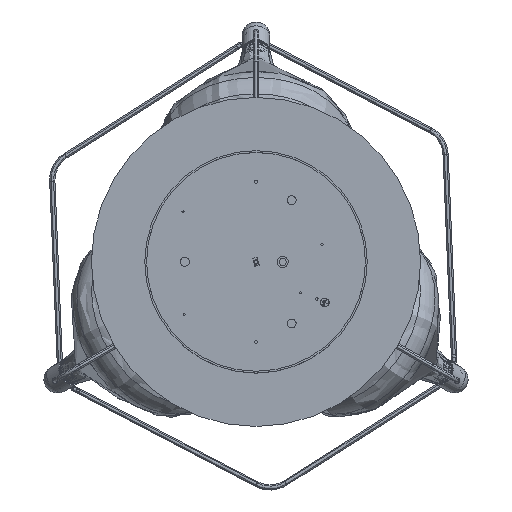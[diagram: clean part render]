
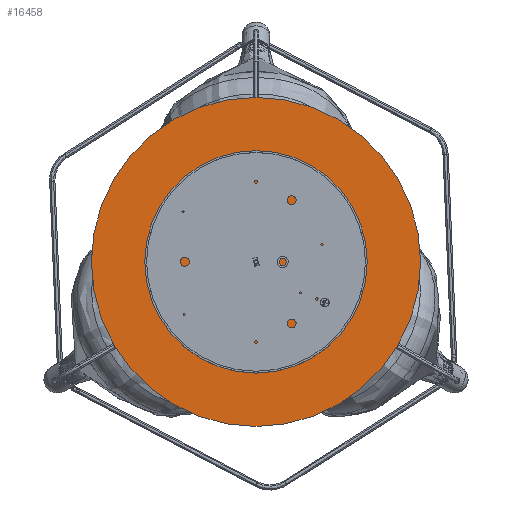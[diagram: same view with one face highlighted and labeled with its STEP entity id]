
A CAD part, top view. The second image highlights one B-rep face of the part: STEP entity #16458.
In plain terms, the highlighted planar face has unit normal (0, 0, 1).
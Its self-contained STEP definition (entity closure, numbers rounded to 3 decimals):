
#2725=PLANE('',#17591);
#3301=FACE_BOUND('',#4987,.T.);
#3919=FACE_OUTER_BOUND('',#4986,.T.);
#4986=EDGE_LOOP('',(#11092));
#4987=EDGE_LOOP('',(#11093));
#6557=CIRCLE('',#17586,18.9);
#6559=CIRCLE('',#17589,185.);
#7314=VERTEX_POINT('',#23837);
#7316=VERTEX_POINT('',#23842);
#8919=EDGE_CURVE('',#7314,#7314,#6557,.T.);
#8921=EDGE_CURVE('',#7316,#7316,#6559,.T.);
#11092=ORIENTED_EDGE('',*,*,#8921,.F.);
#11093=ORIENTED_EDGE('',*,*,#8919,.T.);
#16458=ADVANCED_FACE('',(#3919,#3301),#2725,.F.);
#17586=AXIS2_PLACEMENT_3D('',#23838,#19394,#19395);
#17589=AXIS2_PLACEMENT_3D('',#23843,#19400,#19401);
#17591=AXIS2_PLACEMENT_3D('',#23846,#19404,#19405);
#19394=DIRECTION('center_axis',(0.,0.,
-1.));
#19395=DIRECTION('ref_axis',(0.,1.,0.));
#19400=DIRECTION('center_axis',(0.,0.,
-1.));
#19401=DIRECTION('ref_axis',(0.,1.,0.));
#19404=DIRECTION('center_axis',(0.,0.,
-1.));
#19405=DIRECTION('ref_axis',(0.,1.,0.));
#23837=CARTESIAN_POINT('',(0.,-18.9,-52.));
#23838=CARTESIAN_POINT('Origin',(0.,0.,
-52.));
#23842=CARTESIAN_POINT('',(0.,-185.,-52.));
#23843=CARTESIAN_POINT('Origin',(0.,0.,
-52.));
#23846=CARTESIAN_POINT('Origin',(0.,0.,
-52.));
